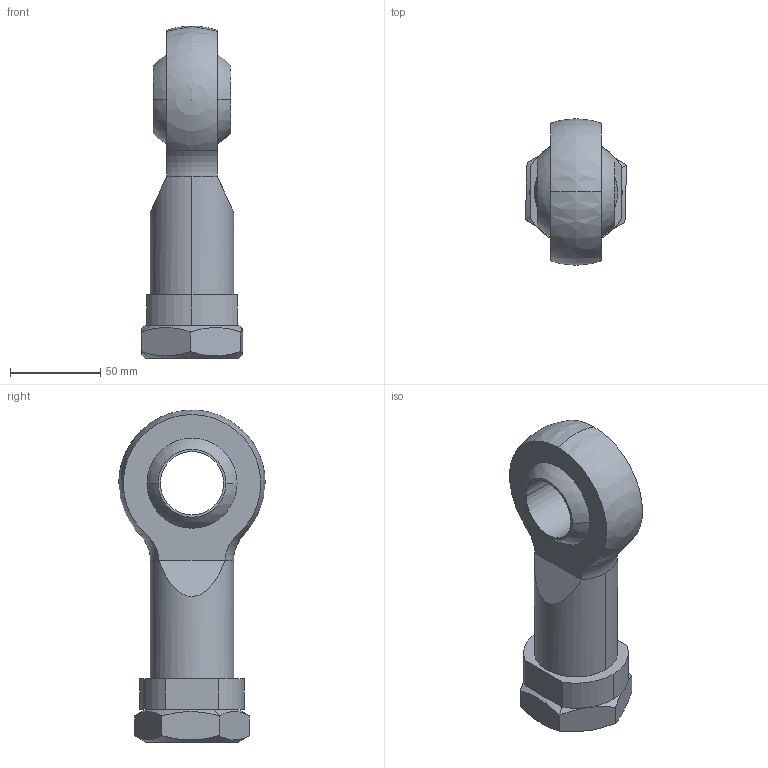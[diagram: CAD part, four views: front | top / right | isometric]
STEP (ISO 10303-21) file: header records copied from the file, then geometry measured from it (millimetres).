
FILE_DESCRIPTION (( 'STEP AP203' ), '1' );
FILE_NAME ('MJ5-KGK.STEP', '2024-01-15T15:26:54', ( '' ), ( '' ), 'SwSTEP 2.0', 'SolidWorks 2022', '' );
FILE_SCHEMA (( 'CONFIG_CONTROL_DESIGN' ));
Length unit declared in the file: millimetre
Products named in the file (1): MJ5-KGK
Bounding box: 55.87 x 81 x 183.5 mm (x, y, z)
Volume: 242322.9 mm3; surface area: 50656.9 mm2
Topology: 2 solids, 2 shells, 48 faces, 114 edges, 70 vertices
Faces by surface type: plane 18, cylinder 12, cone 10, sphere 6, torus 2
Entity records: 1579 total; most frequent: CARTESIAN_POINT 429, DIRECTION 240, ORIENTED_EDGE 214, EDGE_CURVE 107, AXIS2_PLACEMENT_3D 102, VERTEX_POINT 67, EDGE_LOOP 56, CIRCLE 53
